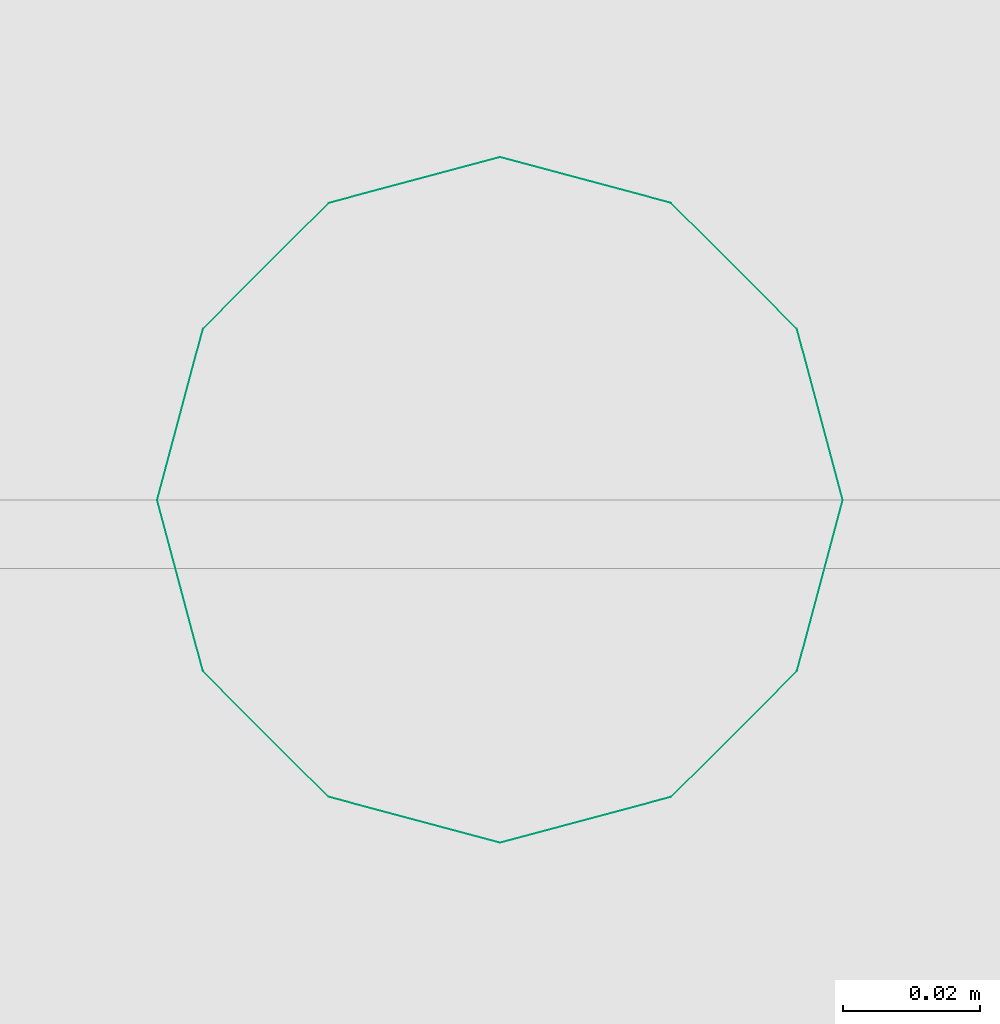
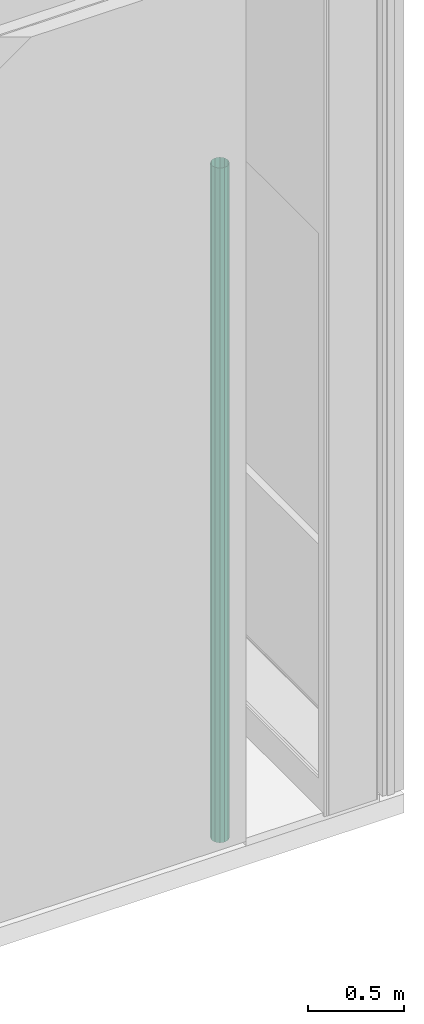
# One storey, part 29 of 35: 1 distribution flow element.
"""IFC2X3 building model written with IfcOpenShell, lengths in millimetres."""

from ifc_helpers import new_model, entity, si_unit, converted_unit, derived_unit, money_unit, direction, frame, origin_with_axes, place, context, subcontext, project, spatial, open_shell, surface_model, source, transform, mapped, type_object, type_shapes, element, save


model = new_model("IFC2X3")

# Units and contexts
model_context = context("Model", 3, precision=0.01, world=origin_with_axes(), true_north=direction((0.0, 1.0)))
body_context = subcontext(model_context, "Body", "Model", "MODEL_VIEW")
ifc_project = project(units=[si_unit("LENGTHUNIT", "METRE", prefix="MILLI"), si_unit("AREAUNIT", "SQUARE_METRE"), si_unit("VOLUMEUNIT", "CUBIC_METRE"), converted_unit("PLANEANGLEUNIT", "DEGREE", entity("IfcPlaneAngleMeasure", 0.0174532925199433), si_unit("PLANEANGLEUNIT", "RADIAN"), dimensions=[0, 0, 0, 0, 0, 0, 0]), money_unit("EUR"), converted_unit("TIMEUNIT", "Year", entity("IfcTimeMeasure", 31557600.0), si_unit("TIMEUNIT", "SECOND"), dimensions=[0, 0, 1, 0, 0, 0, 0]), si_unit("MASSUNIT", "GRAM", prefix="KILO"), si_unit("THERMODYNAMICTEMPERATUREUNIT", "DEGREE_CELSIUS"), si_unit("LUMINOUSINTENSITYUNIT", "LUMEN"), si_unit("ENERGYUNIT", "JOULE", prefix="MEGA"), derived_unit("THERMALCONDUCTANCEUNIT", [(si_unit("POWERUNIT", "WATT"), 1), (si_unit("LENGTHUNIT", "METRE"), -1), (si_unit("THERMODYNAMICTEMPERATUREUNIT", "KELVIN"), -1)]), derived_unit("SPECIFICHEATCAPACITYUNIT", [(si_unit("ENERGYUNIT", "JOULE"), 1), (si_unit("MASSUNIT", "GRAM", prefix="KILO"), -1), (si_unit("THERMODYNAMICTEMPERATUREUNIT", "KELVIN"), -1)]), derived_unit("MASSDENSITYUNIT", [(si_unit("MASSUNIT", "GRAM", prefix="KILO"), 1), (si_unit("VOLUMEUNIT", "CUBIC_METRE"), -1)])], contexts=[model_context])

# Site, building, storey
site_placement = place(None, origin_with_axes())
site = spatial("IfcSite", under=ifc_project, at=site_placement, Name="<site naam>", CompositionType="ELEMENT")
building_placement = place(site_placement, origin_with_axes())
building = spatial("IfcBuilding", under=site, at=building_placement, Name="<Naam gebouw>", CompositionType="ELEMENT")
storey_placement = place(building_placement, frame((0.0, 0.0, 6345.0), z_axis=(0.0, 0.0, 1.0), x_axis=(1.0, 0.0, 0.0)))
storey = spatial("IfcBuildingStorey", under=building, at=storey_placement, Name="02 2e tussenverdieping", CompositionType="ELEMENT", Elevation=6345.0)

# Distribution flow element
valve_type = type_object("IfcValveType", Name="Regenpijp 27", PredefinedType="AIRRELEASE")
shared_shape = source(origin_with_axes(), body_context, "Body", "SurfaceModel", [
    surface_model("IfcShellBasedSurfaceModel", [(-50.0, -30.0, 4272.999999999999), (-50.0, -30.0, 0.0), (-43.30127018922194, -54.99999999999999, 0.0), (-43.30127018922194, -54.99999999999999, 4272.999999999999), (-43.30127018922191, -4.999999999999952, 4272.999999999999), (-43.30127018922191, -4.999999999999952, 0.0), (-25.00000000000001, -73.30127018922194, 0.0), (-25.00000000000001, -73.30127018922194, 4272.999999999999), (-24.99999999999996, 13.30127018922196, 4272.999999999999), (-24.99999999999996, 13.30127018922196, 0.0), (0.0, -80.0, 0.0), (0.0, -80.0, 4272.999999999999), (0.0, 20.0, 4272.999999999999), (0.0, 20.0, 0.0), (24.99999999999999, -73.30127018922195, 0.0), (24.99999999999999, -73.30127018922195, 4272.999999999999), (25.00000000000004, 13.30127018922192, 4272.999999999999), (25.00000000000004, 13.30127018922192, 0.0), (43.30127018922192, -55.00000000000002, 0.0), (43.30127018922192, -55.00000000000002, 4272.999999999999), (43.30127018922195, -5.000000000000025, 4272.999999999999), (43.30127018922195, -5.000000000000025, 0.0), (50.0, -30.00000000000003, 0.0), (50.0, -30.00000000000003, 4272.999999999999)], [open_shell([[[0, 1, 2, 3]], [[4, 5, 1, 0]], [[3, 2, 6, 7]], [[8, 9, 5, 4]], [[7, 6, 10, 11]], [[12, 13, 9, 8]], [[11, 10, 14, 15]], [[16, 17, 13, 12]], [[15, 14, 18, 19]], [[20, 21, 17, 16]], [[19, 18, 22, 23]], [[23, 22, 21, 20]]])]),
])
type_shapes(valve_type, [shared_shape])
distribution_flow_element_placement = place(storey_placement, frame((69225.000113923, 140.9107379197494, 0.0), z_axis=(0.0, 0.0, 1.0), x_axis=(1.0, 0.0, 0.0)))
element("IfcDistributionFlowElement", 1, at=distribution_flow_element_placement, inside=storey, type_object=valve_type, Name="52_Wasmachine_Lege", context=body_context, shape_type="MappedRepresentation", body=[
    mapped(shared_shape, transform((0.0, 0.0, 0.0))),
])

save(model, "model.ifc")
